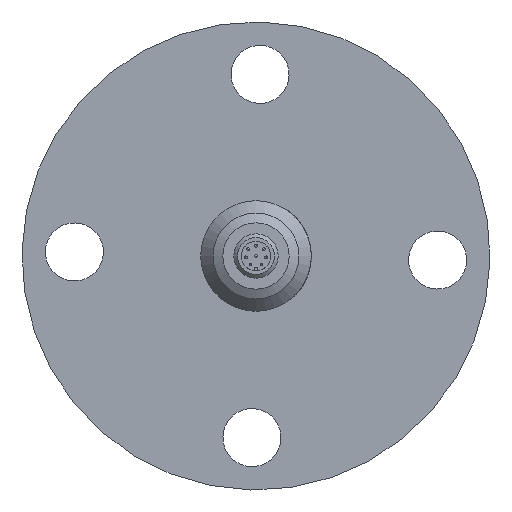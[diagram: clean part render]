
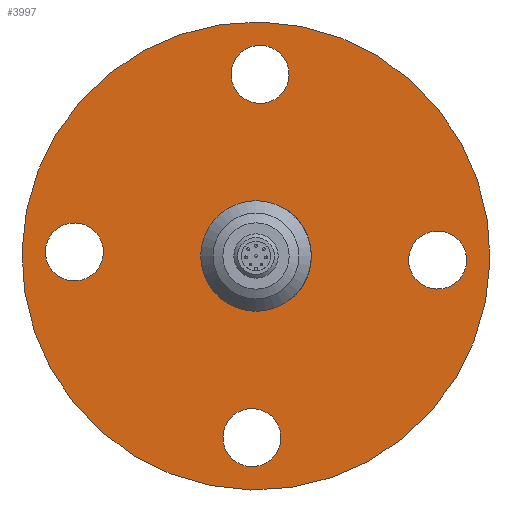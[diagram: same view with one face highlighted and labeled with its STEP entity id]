
A CAD part, left-side view. The second image highlights one B-rep face of the part: STEP entity #3997.
In plain terms, the highlighted planar face has unit normal (-1, 0, 0).
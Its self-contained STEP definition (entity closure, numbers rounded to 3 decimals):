
#138=PLANE('',#4331);
#1182=ORIENTED_EDGE('',*,*,#2210,.F.);
#1183=ORIENTED_EDGE('',*,*,#2209,.T.);
#1184=ORIENTED_EDGE('',*,*,#2208,.T.);
#1185=ORIENTED_EDGE('',*,*,#2207,.T.);
#1186=ORIENTED_EDGE('',*,*,#2206,.T.);
#1187=ORIENTED_EDGE('',*,*,#2205,.F.);
#2205=EDGE_CURVE('',#2740,#2740,#3092,.T.);
#2206=EDGE_CURVE('',#2741,#2741,#3093,.T.);
#2207=EDGE_CURVE('',#2742,#2742,#3094,.T.);
#2208=EDGE_CURVE('',#2743,#2743,#3095,.T.);
#2209=EDGE_CURVE('',#2744,#2744,#3096,.T.);
#2210=EDGE_CURVE('',#2745,#2745,#3097,.F.);
#2740=VERTEX_POINT('',#7599);
#2741=VERTEX_POINT('',#7602);
#2742=VERTEX_POINT('',#7605);
#2743=VERTEX_POINT('',#7608);
#2744=VERTEX_POINT('',#7611);
#2745=VERTEX_POINT('',#7614);
#3092=CIRCLE('',#4322,63.5);
#3093=CIRCLE('',#4324,7.874);
#3094=CIRCLE('',#4326,7.874);
#3095=CIRCLE('',#4328,7.874);
#3096=CIRCLE('',#4330,7.874);
#3097=CIRCLE('',#4332,15.);
#3299=EDGE_LOOP('',(#1182));
#3300=EDGE_LOOP('',(#1183));
#3301=EDGE_LOOP('',(#1184));
#3302=EDGE_LOOP('',(#1185));
#3303=EDGE_LOOP('',(#1186));
#3304=EDGE_LOOP('',(#1187));
#3662=FACE_BOUND('',#3299,.T.);
#3663=FACE_BOUND('',#3300,.T.);
#3664=FACE_BOUND('',#3301,.T.);
#3665=FACE_BOUND('',#3302,.T.);
#3666=FACE_BOUND('',#3303,.T.);
#3667=FACE_BOUND('',#3304,.T.);
#3997=ADVANCED_FACE('',(#3662,#3663,#3664,#3665,#3666,#3667),#138,.F.);
#4322=AXIS2_PLACEMENT_3D('',#7598,#4785,#4786);
#4324=AXIS2_PLACEMENT_3D('',#7601,#4789,#4790);
#4326=AXIS2_PLACEMENT_3D('',#7604,#4793,#4794);
#4328=AXIS2_PLACEMENT_3D('',#7607,#4797,#4798);
#4330=AXIS2_PLACEMENT_3D('',#7610,#4801,#4802);
#4331=AXIS2_PLACEMENT_3D('',#7612,#4803,#4804);
#4332=AXIS2_PLACEMENT_3D('',#7613,#4805,#4806);
#4785=DIRECTION('',(1.,0.,0.));
#4786=DIRECTION('',(0.,-1.,-0.022));
#4789=DIRECTION('',(1.,0.,0.));
#4790=DIRECTION('',(0.,-1.,-0.022));
#4793=DIRECTION('',(1.,0.,0.));
#4794=DIRECTION('',(0.,-1.,-0.022));
#4797=DIRECTION('',(1.,0.,0.));
#4798=DIRECTION('',(0.,-1.,-0.022));
#4801=DIRECTION('',(1.,0.,0.));
#4802=DIRECTION('',(0.,-1.,-0.022));
#4803=DIRECTION('',(1.,0.,0.));
#4804=DIRECTION('',(0.,1.,0.022));
#4805=DIRECTION('',(1.,0.,0.));
#4806=DIRECTION('',(0.,1.,0.));
#7598=CARTESIAN_POINT('',(-178.251,0.,0.));
#7599=CARTESIAN_POINT('',(-178.251,-63.484,-1.415));
#7601=CARTESIAN_POINT('',(-178.251,49.264,1.098));
#7602=CARTESIAN_POINT('',(-178.251,41.392,0.923));
#7604=CARTESIAN_POINT('',(-178.251,-1.098,49.264));
#7605=CARTESIAN_POINT('',(-178.251,-8.97,49.088));
#7607=CARTESIAN_POINT('',(-178.251,-49.264,-1.098));
#7608=CARTESIAN_POINT('',(-178.251,-57.136,-1.274));
#7610=CARTESIAN_POINT('',(-178.251,1.098,-49.264));
#7611=CARTESIAN_POINT('',(-178.251,-6.774,-49.439));
#7612=CARTESIAN_POINT('',(-178.251,1.415,-63.484));
#7613=CARTESIAN_POINT('',(-178.251,0.,0.));
#7614=CARTESIAN_POINT('',(-178.251,15.,0.));
